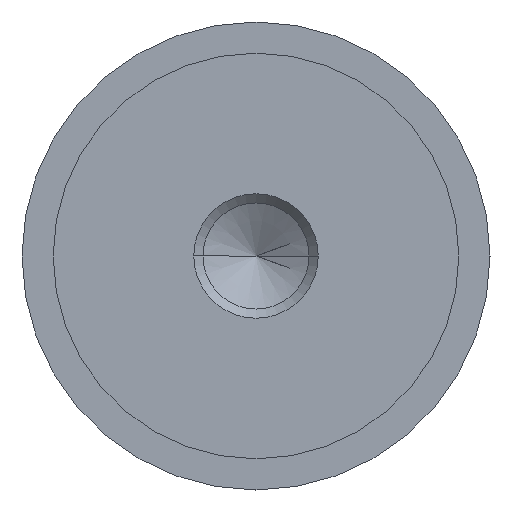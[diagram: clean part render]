
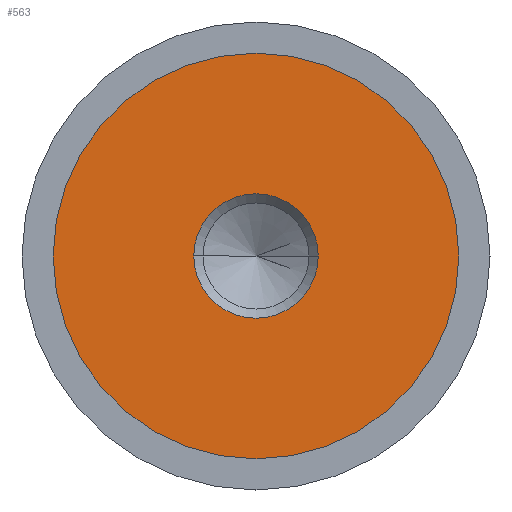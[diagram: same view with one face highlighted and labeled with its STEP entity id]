
A CAD part, left-side view. The second image highlights one B-rep face of the part: STEP entity #563.
In plain terms, the highlighted planar face has unit normal (-1, 0, 0).
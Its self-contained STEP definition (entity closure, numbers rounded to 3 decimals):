
#21 = AXIS2_PLACEMENT_3D ( 'NONE', #270, #208, #148 ) ;
#70 = ORIENTED_EDGE ( 'NONE', *, *, #299, .T. ) ;
#96 = CARTESIAN_POINT ( 'NONE',  ( -7.49, 13., 0. ) ) ;
#98 = DIRECTION ( 'NONE',  ( 1., 0., 0. ) ) ;
#103 = EDGE_CURVE ( 'NONE', #566, #309, #369, .T. ) ;
#120 = CARTESIAN_POINT ( 'NONE',  ( -7.49, 0., 0. ) ) ;
#148 = DIRECTION ( 'NONE',  ( 0., 0., 1. ) ) ;
#174 = CARTESIAN_POINT ( 'NONE',  ( -7.49, 0., -13. ) ) ;
#188 = CARTESIAN_POINT ( 'NONE',  ( -7.49, 0., 0. ) ) ;
#202 = VERTEX_POINT ( 'NONE', #405 ) ;
#204 = AXIS2_PLACEMENT_3D ( 'NONE', #96, #98, #581 ) ;
#208 = DIRECTION ( 'NONE',  ( -1., 0., 0. ) ) ;
#270 = CARTESIAN_POINT ( 'NONE',  ( -7.49, 0., 0. ) ) ;
#279 = EDGE_CURVE ( 'NONE', #202, #739, #401, .T. ) ;
#280 = PLANE ( 'NONE',  #204 ) ;
#292 = CARTESIAN_POINT ( 'NONE',  ( -7.49, 0., 0. ) ) ;
#299 = EDGE_CURVE ( 'NONE', #739, #202, #772, .T. ) ;
#307 = DIRECTION ( 'NONE',  ( 0., 0., -1. ) ) ;
#309 = VERTEX_POINT ( 'NONE', #174 ) ;
#369 = CIRCLE ( 'NONE', #21, 13. ) ;
#385 = ORIENTED_EDGE ( 'NONE', *, *, #745, .T. ) ;
#386 = AXIS2_PLACEMENT_3D ( 'NONE', #188, #779, #307 ) ;
#401 = CIRCLE ( 'NONE', #673, 3.99 ) ;
#405 = CARTESIAN_POINT ( 'NONE',  ( -7.49, 3.99, 0. ) ) ;
#427 = DIRECTION ( 'NONE',  ( 1., 0., 0. ) ) ;
#453 = CARTESIAN_POINT ( 'NONE',  ( -7.49, 0., 13. ) ) ;
#466 = DIRECTION ( 'NONE',  ( 0., 0., -1. ) ) ;
#476 = DIRECTION ( 'NONE',  ( -1., 0., 0. ) ) ;
#530 = CARTESIAN_POINT ( 'NONE',  ( -7.49, -3.99, 0. ) ) ;
#537 = EDGE_LOOP ( 'NONE', ( #782, #385 ) ) ;
#563 = ADVANCED_FACE ( 'NONE', ( #631, #628 ), #280, .F. ) ;
#566 = VERTEX_POINT ( 'NONE', #453 ) ;
#581 = DIRECTION ( 'NONE',  ( 0., 0., -1. ) ) ;
#598 = DIRECTION ( 'NONE',  ( 0., 0., 1. ) ) ;
#625 = AXIS2_PLACEMENT_3D ( 'NONE', #120, #476, #598 ) ;
#628 = FACE_OUTER_BOUND ( 'NONE', #537, .T. ) ;
#631 = FACE_BOUND ( 'NONE', #662, .T. ) ;
#632 = ORIENTED_EDGE ( 'NONE', *, *, #279, .T. ) ;
#662 = EDGE_LOOP ( 'NONE', ( #70, #632 ) ) ;
#673 = AXIS2_PLACEMENT_3D ( 'NONE', #292, #427, #466 ) ;
#739 = VERTEX_POINT ( 'NONE', #530 ) ;
#745 = EDGE_CURVE ( 'NONE', #309, #566, #778, .T. ) ;
#772 = CIRCLE ( 'NONE', #386, 3.99 ) ;
#778 = CIRCLE ( 'NONE', #625, 13. ) ;
#779 = DIRECTION ( 'NONE',  ( 1., 0., 0. ) ) ;
#782 = ORIENTED_EDGE ( 'NONE', *, *, #103, .T. ) ;
